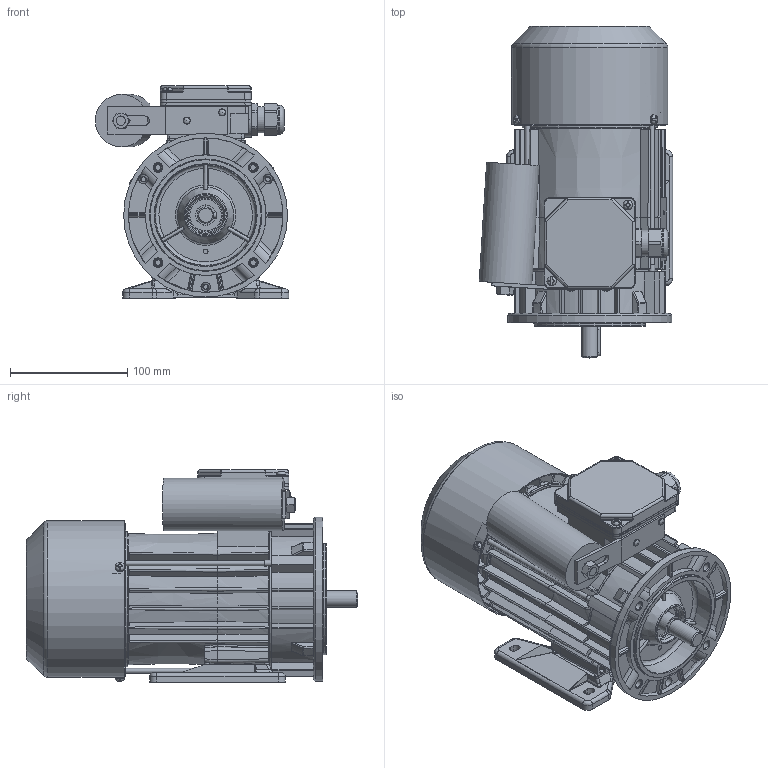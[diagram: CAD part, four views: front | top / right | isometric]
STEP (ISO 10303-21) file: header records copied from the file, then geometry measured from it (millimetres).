
FILE_DESCRIPTION(/* description */ ('Unknown'),/* implementation_level */ '2;1');
FILE_NAME(/* name */ '3SSIEL71-4B1',/* time_stamp */ '2024-06-18T13:02:20+02:00',/* author */ ('Unknown'),/* organization */ ('Unknown'),/* preprocessor_version */ 'ST-DEVELOPER v16.7',/* originating_system */ 'Solid Edge',/* authorisation */ 'Unknown');
FILE_SCHEMA (('AUTOMOTIVE_DESIGN {1 0 10303 214 3 1 1}'));
Products named in the file (1): Czêœæ23
Bounding box: 165.27 x 283.48 x 181.5 mm (x, y, z)
Volume: 1000030.3 mm3; surface area: 493188.2 mm2
Topology: 2 solids, 2 shells, 2844 faces, 7737 edges, 4914 vertices
Faces by surface type: plane 1184, cylinder 790, bspline 423, torus 211, cone 200, sphere 36
Full cylindrical faces by diameter (mm): 2 x2, 2.4 x2, 3 x1, 3.7 x4, 3.8 x4, 4 x5, 4.134 x3, 4.3 x2, 4.4 x3, 4.5 x2, 4.8 x2, 5 x5, 5.1 x3, 5.5 x3, 5.8 x4, 6 x2, 6.5 x1, 6.8 x4, 7 x1, 8 x7, 13.599 x1, 13.999 x1, 15.898 x1, 16.098 x1, 16.498 x1, 16.998 x2, 17.4 x2, 21.998 x2, 22.3 x1, 22.498 x1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
Entity records: 117799 total; most frequent: CARTESIAN_POINT 30878, ORIENTED_EDGE 14644, DIRECTION 12949, EDGE_CURVE 7322, AXIS2_PLACEMENT_3D 4911, VERTEX_POINT 4770, EDGE_LOOP 3322, FACE_BOUND 3322
